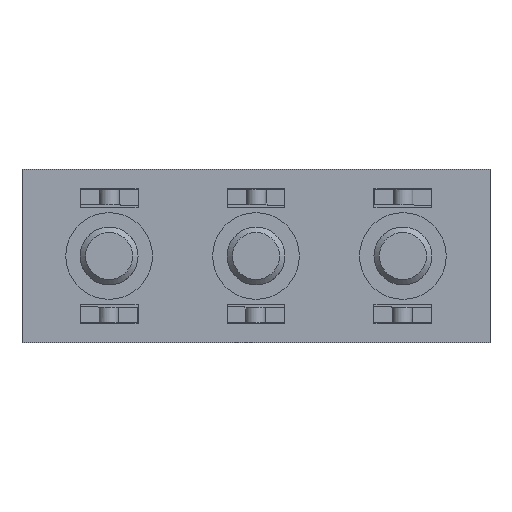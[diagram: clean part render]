
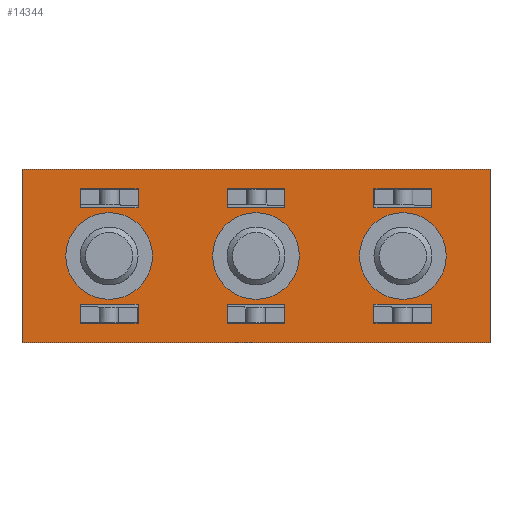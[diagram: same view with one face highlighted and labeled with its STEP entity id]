
A CAD part, front view. The second image highlights one B-rep face of the part: STEP entity #14344.
In plain terms, the highlighted planar face has unit normal (0, -1, 0).
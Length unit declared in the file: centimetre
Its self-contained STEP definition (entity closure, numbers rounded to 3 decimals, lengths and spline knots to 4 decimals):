
#761=PLANE('',#23874);
#1235=VECTOR('',#15170,1.);
#1334=VECTOR('',#15414,1.);
#1337=VECTOR('',#15418,1.);
#1365=VECTOR('',#15515,1.);
#1369=VECTOR('',#15520,1.);
#1372=VECTOR('',#15524,1.);
#1375=VECTOR('',#15534,1.);
#1379=VECTOR('',#15539,1.);
#1382=VECTOR('',#15543,1.);
#1480=VECTOR('',#15786,1.);
#1483=VECTOR('',#15790,1.);
#1503=VECTOR('',#15856,1.);
#1511=VECTOR('',#15875,1.);
#1517=VECTOR('',#15882,1.);
#1519=VECTOR('',#15885,1.);
#1521=VECTOR('',#15888,1.);
#1523=VECTOR('',#15895,1.);
#1525=VECTOR('',#15898,1.);
#1527=VECTOR('',#15901,1.);
#1528=VECTOR('',#15903,1.);
#1529=VECTOR('',#15904,1.);
#1530=VECTOR('',#15905,1.);
#1531=VECTOR('',#15908,1.);
#1532=VECTOR('',#15909,1.);
#1533=VECTOR('',#15910,1.);
#1534=VECTOR('',#15911,1.);
#1535=VECTOR('',#15912,1.);
#1536=VECTOR('',#15913,1.);
#2820=LINE('',#17845,#1235);
#2919=LINE('',#18179,#1334);
#2922=LINE('',#18186,#1337);
#2950=LINE('',#18286,#1365);
#2954=LINE('',#18295,#1369);
#2957=LINE('',#18301,#1372);
#2960=LINE('',#18313,#1375);
#2964=LINE('',#18322,#1379);
#2967=LINE('',#18328,#1382);
#3065=LINE('',#18660,#1480);
#3068=LINE('',#18667,#1483);
#3088=LINE('',#18732,#1503);
#3096=LINE('',#18749,#1511);
#3102=LINE('',#18762,#1517);
#3104=LINE('',#18767,#1519);
#3106=LINE('',#18770,#1521);
#3108=LINE('',#18777,#1523);
#3110=LINE('',#18782,#1525);
#3112=LINE('',#18785,#1527);
#3113=LINE('',#18787,#1528);
#3114=LINE('',#18789,#1529);
#3115=LINE('',#18791,#1530);
#3116=LINE('',#18794,#1531);
#3117=LINE('',#18796,#1532);
#3118=LINE('',#18798,#1533);
#3119=LINE('',#18799,#1534);
#3120=LINE('',#18800,#1535);
#3121=LINE('',#18801,#1536);
#4406=VERTEX_POINT('',#17844);
#4407=VERTEX_POINT('',#17846);
#4509=VERTEX_POINT('',#18178);
#4510=VERTEX_POINT('',#18180);
#4512=VERTEX_POINT('',#18185);
#4513=VERTEX_POINT('',#18187);
#4547=VERTEX_POINT('',#18285);
#4548=VERTEX_POINT('',#18287);
#4551=VERTEX_POINT('',#18294);
#4553=VERTEX_POINT('',#18300);
#4555=VERTEX_POINT('',#18306);
#4558=VERTEX_POINT('',#18312);
#4559=VERTEX_POINT('',#18314);
#4562=VERTEX_POINT('',#18321);
#4564=VERTEX_POINT('',#18327);
#4666=VERTEX_POINT('',#18659);
#4667=VERTEX_POINT('',#18661);
#4669=VERTEX_POINT('',#18666);
#4670=VERTEX_POINT('',#18668);
#4690=VERTEX_POINT('',#18731);
#4693=VERTEX_POINT('',#18750);
#4698=VERTEX_POINT('',#18761);
#4700=VERTEX_POINT('',#18766);
#4701=VERTEX_POINT('',#18773);
#4702=VERTEX_POINT('',#18776);
#4704=VERTEX_POINT('',#18781);
#4705=VERTEX_POINT('',#18788);
#4706=VERTEX_POINT('',#18790);
#4707=VERTEX_POINT('',#18793);
#4708=VERTEX_POINT('',#18795);
#4709=VERTEX_POINT('',#18797);
#5862=CIRCLE('',#23738,0.225);
#5910=CIRCLE('',#23870,0.225);
#5911=CIRCLE('',#23875,0.225);
#5996=EDGE_CURVE('',#4406,#4407,#2820,.T.);
#6144=EDGE_CURVE('',#4509,#4510,#2919,.T.);
#6148=EDGE_CURVE('',#4513,#4512,#2922,.T.);
#6199=EDGE_CURVE('',#4548,#4547,#2950,.T.);
#6204=EDGE_CURVE('',#4547,#4551,#2954,.T.);
#6207=EDGE_CURVE('',#4551,#4553,#2957,.T.);
#6209=EDGE_CURVE('',#4555,#4555,#5862,.T.);
#6212=EDGE_CURVE('',#4558,#4559,#2960,.T.);
#6217=EDGE_CURVE('',#4562,#4558,#2964,.T.);
#6220=EDGE_CURVE('',#4564,#4562,#2967,.T.);
#6367=EDGE_CURVE('',#4667,#4666,#3065,.T.);
#6371=EDGE_CURVE('',#4669,#4670,#3068,.T.);
#6405=EDGE_CURVE('',#4690,#4406,#3088,.T.);
#6415=EDGE_CURVE('',#4407,#4693,#3096,.T.);
#6422=EDGE_CURVE('',#4666,#4698,#3102,.T.);
#6425=EDGE_CURVE('',#4698,#4700,#3104,.T.);
#6427=EDGE_CURVE('',#4700,#4667,#3106,.T.);
#6428=EDGE_CURVE('',#4701,#4701,#5910,.T.);
#6430=EDGE_CURVE('',#4702,#4669,#3108,.T.);
#6433=EDGE_CURVE('',#4704,#4702,#3110,.T.);
#6435=EDGE_CURVE('',#4670,#4704,#3112,.T.);
#6436=EDGE_CURVE('',#4510,#4705,#3113,.T.);
#6437=EDGE_CURVE('',#4706,#4509,#3114,.T.);
#6438=EDGE_CURVE('',#4705,#4706,#3115,.T.);
#6439=EDGE_CURVE('',#4707,#4707,#5911,.T.);
#6440=EDGE_CURVE('',#4512,#4708,#3116,.T.);
#6441=EDGE_CURVE('',#4708,#4709,#3117,.T.);
#6442=EDGE_CURVE('',#4709,#4513,#3118,.T.);
#6443=EDGE_CURVE('',#4559,#4564,#3119,.T.);
#6444=EDGE_CURVE('',#4553,#4548,#3120,.T.);
#6445=EDGE_CURVE('',#4693,#4690,#3121,.T.);
#8973=ORIENTED_EDGE('',*,*,#6436,.F.);
#8974=ORIENTED_EDGE('',*,*,#6144,.F.);
#8975=ORIENTED_EDGE('',*,*,#6437,.F.);
#8976=ORIENTED_EDGE('',*,*,#6438,.F.);
#8977=ORIENTED_EDGE('',*,*,#6439,.T.);
#8978=ORIENTED_EDGE('',*,*,#6148,.T.);
#8979=ORIENTED_EDGE('',*,*,#6440,.T.);
#8980=ORIENTED_EDGE('',*,*,#6441,.T.);
#8981=ORIENTED_EDGE('',*,*,#6442,.T.);
#8982=ORIENTED_EDGE('',*,*,#6220,.F.);
#8983=ORIENTED_EDGE('',*,*,#6443,.F.);
#8984=ORIENTED_EDGE('',*,*,#6212,.F.);
#8985=ORIENTED_EDGE('',*,*,#6217,.F.);
#8986=ORIENTED_EDGE('',*,*,#6209,.T.);
#8987=ORIENTED_EDGE('',*,*,#6444,.T.);
#8988=ORIENTED_EDGE('',*,*,#6199,.T.);
#8989=ORIENTED_EDGE('',*,*,#6204,.T.);
#8990=ORIENTED_EDGE('',*,*,#6207,.T.);
#8991=ORIENTED_EDGE('',*,*,#6435,.F.);
#8992=ORIENTED_EDGE('',*,*,#6371,.F.);
#8993=ORIENTED_EDGE('',*,*,#6430,.F.);
#8994=ORIENTED_EDGE('',*,*,#6433,.F.);
#8995=ORIENTED_EDGE('',*,*,#6428,.T.);
#8996=ORIENTED_EDGE('',*,*,#6367,.T.);
#8997=ORIENTED_EDGE('',*,*,#6422,.T.);
#8998=ORIENTED_EDGE('',*,*,#6425,.T.);
#8999=ORIENTED_EDGE('',*,*,#6427,.T.);
#9000=ORIENTED_EDGE('',*,*,#6405,.F.);
#9001=ORIENTED_EDGE('',*,*,#6445,.F.);
#9002=ORIENTED_EDGE('',*,*,#6415,.F.);
#9003=ORIENTED_EDGE('',*,*,#5996,.F.);
#12540=EDGE_LOOP('',(#8973,#8974,#8975,#8976));
#12541=EDGE_LOOP('',(#8977));
#12542=EDGE_LOOP('',(#8978,#8979,#8980,#8981));
#12543=EDGE_LOOP('',(#8982,#8983,#8984,#8985));
#12544=EDGE_LOOP('',(#8986));
#12545=EDGE_LOOP('',(#8987,#8988,#8989,#8990));
#12546=EDGE_LOOP('',(#8991,#8992,#8993,#8994));
#12547=EDGE_LOOP('',(#8995));
#12548=EDGE_LOOP('',(#8996,#8997,#8998,#8999));
#12549=EDGE_LOOP('',(#9000,#9001,#9002,#9003));
#13453=FACE_BOUND('',#12540,.T.);
#13454=FACE_BOUND('',#12541,.T.);
#13455=FACE_BOUND('',#12542,.T.);
#13456=FACE_BOUND('',#12543,.T.);
#13457=FACE_BOUND('',#12544,.T.);
#13458=FACE_BOUND('',#12545,.T.);
#13459=FACE_BOUND('',#12546,.T.);
#13460=FACE_BOUND('',#12547,.T.);
#13461=FACE_BOUND('',#12548,.T.);
#13462=FACE_BOUND('',#12549,.T.);
#14344=ADVANCED_FACE('',(#13453,#13454,#13455,#13456,#13457,#13458,#13459,
#13460,#13461,#13462),#761,.F.);
#15170=DIRECTION('',(0.,0.,-1.));
#15414=DIRECTION('',(0.,0.,1.));
#15418=DIRECTION('',(0.,0.,1.));
#15515=DIRECTION('',(1.,0.,0.));
#15520=DIRECTION('',(0.,0.,-1.));
#15524=DIRECTION('',(-1.,0.,0.));
#15529=DIRECTION('',(0.,1.,0.));
#15530=DIRECTION('',(0.225,0.,0.));
#15534=DIRECTION('',(1.,0.,0.));
#15539=DIRECTION('',(0.,0.,-1.));
#15543=DIRECTION('',(-1.,0.,0.));
#15786=DIRECTION('',(0.,0.,1.));
#15790=DIRECTION('',(0.,0.,1.));
#15856=DIRECTION('',(1.,0.,0.));
#15875=DIRECTION('',(-1.,0.,0.));
#15882=DIRECTION('',(1.,0.,0.));
#15885=DIRECTION('',(0.,0.,-1.));
#15888=DIRECTION('',(-1.,0.,0.));
#15891=DIRECTION('',(0.,1.,0.));
#15892=DIRECTION('',(0.225,0.,0.));
#15895=DIRECTION('',(1.,0.,0.));
#15898=DIRECTION('',(0.,0.,-1.));
#15901=DIRECTION('',(-1.,0.,0.));
#15902=DIRECTION('',(0.,1.,0.));
#15903=DIRECTION('',(-1.,0.,0.));
#15904=DIRECTION('',(1.,0.,0.));
#15905=DIRECTION('',(0.,0.,-1.));
#15906=DIRECTION('',(0.,1.,0.));
#15907=DIRECTION('',(0.225,0.,0.));
#15908=DIRECTION('',(1.,0.,0.));
#15909=DIRECTION('',(0.,0.,-1.));
#15910=DIRECTION('',(-1.,0.,0.));
#15911=DIRECTION('',(0.,0.,1.));
#15912=DIRECTION('',(0.,0.,1.));
#15913=DIRECTION('',(0.,0.,1.));
#17844=CARTESIAN_POINT('',(1.666,0.,0.45));
#17845=CARTESIAN_POINT('',(1.666,0.,0.45));
#17846=CARTESIAN_POINT('',(1.666,0.,-0.45));
#18178=CARTESIAN_POINT('',(-0.16,0.,0.25));
#18179=CARTESIAN_POINT('',(-0.16,0.,0.25));
#18180=CARTESIAN_POINT('',(-0.16,0.,0.35));
#18185=CARTESIAN_POINT('',(-0.46,0.,-0.25));
#18186=CARTESIAN_POINT('',(-0.46,0.,-0.35));
#18187=CARTESIAN_POINT('',(-0.46,0.,-0.35));
#18285=CARTESIAN_POINT('',(1.364,0.,-0.25));
#18286=CARTESIAN_POINT('',(1.064,0.,-0.25));
#18287=CARTESIAN_POINT('',(1.064,0.,-0.25));
#18294=CARTESIAN_POINT('',(1.364,0.,-0.35));
#18295=CARTESIAN_POINT('',(1.364,0.,-0.25));
#18300=CARTESIAN_POINT('',(1.064,0.,-0.35));
#18301=CARTESIAN_POINT('',(1.364,0.,-0.35));
#18305=CARTESIAN_POINT('',(1.214,0.,0.));
#18306=CARTESIAN_POINT('',(1.439,0.,0.));
#18312=CARTESIAN_POINT('',(1.064,0.,0.25));
#18313=CARTESIAN_POINT('',(1.064,0.,0.25));
#18314=CARTESIAN_POINT('',(1.364,0.,0.25));
#18321=CARTESIAN_POINT('',(1.064,0.,0.35));
#18322=CARTESIAN_POINT('',(1.064,0.,0.35));
#18327=CARTESIAN_POINT('',(1.364,0.,0.35));
#18328=CARTESIAN_POINT('',(1.364,0.,0.35));
#18659=CARTESIAN_POINT('',(0.302,0.,-0.25));
#18660=CARTESIAN_POINT('',(0.302,0.,-0.35));
#18661=CARTESIAN_POINT('',(0.302,0.,-0.35));
#18666=CARTESIAN_POINT('',(0.602,0.,0.25));
#18667=CARTESIAN_POINT('',(0.602,0.,0.25));
#18668=CARTESIAN_POINT('',(0.602,0.,0.35));
#18731=CARTESIAN_POINT('',(-0.762,0.,0.45));
#18732=CARTESIAN_POINT('',(0.,0.,0.45));
#18749=CARTESIAN_POINT('',(0.,0.,-0.45));
#18750=CARTESIAN_POINT('',(-0.762,0.,-0.45));
#18761=CARTESIAN_POINT('',(0.602,0.,-0.25));
#18762=CARTESIAN_POINT('',(0.302,0.,-0.25));
#18766=CARTESIAN_POINT('',(0.602,0.,-0.35));
#18767=CARTESIAN_POINT('',(0.602,0.,-0.25));
#18770=CARTESIAN_POINT('',(0.602,0.,-0.35));
#18772=CARTESIAN_POINT('',(0.452,0.,0.));
#18773=CARTESIAN_POINT('',(0.677,0.,0.));
#18776=CARTESIAN_POINT('',(0.302,0.,0.25));
#18777=CARTESIAN_POINT('',(0.302,0.,0.25));
#18781=CARTESIAN_POINT('',(0.302,0.,0.35));
#18782=CARTESIAN_POINT('',(0.302,0.,0.35));
#18785=CARTESIAN_POINT('',(0.602,0.,0.35));
#18786=CARTESIAN_POINT('',(0.381,0.,0.));
#18787=CARTESIAN_POINT('',(-0.16,0.,0.35));
#18788=CARTESIAN_POINT('',(-0.46,0.,0.35));
#18789=CARTESIAN_POINT('',(-0.46,0.,0.25));
#18790=CARTESIAN_POINT('',(-0.46,0.,0.25));
#18791=CARTESIAN_POINT('',(-0.46,0.,0.35));
#18792=CARTESIAN_POINT('',(-0.31,0.,0.));
#18793=CARTESIAN_POINT('',(-0.085,0.,0.));
#18794=CARTESIAN_POINT('',(-0.46,0.,-0.25));
#18795=CARTESIAN_POINT('',(-0.16,0.,-0.25));
#18796=CARTESIAN_POINT('',(-0.16,0.,-0.25));
#18797=CARTESIAN_POINT('',(-0.16,0.,-0.35));
#18798=CARTESIAN_POINT('',(-0.16,0.,-0.35));
#18799=CARTESIAN_POINT('',(1.364,0.,0.25));
#18800=CARTESIAN_POINT('',(1.064,0.,-0.35));
#18801=CARTESIAN_POINT('',(-0.762,0.,-0.45));
#23738=AXIS2_PLACEMENT_3D('',#18305,#15529,#15530);
#23870=AXIS2_PLACEMENT_3D('',#18772,#15891,#15892);
#23874=AXIS2_PLACEMENT_3D('',#18786,#15902,$);
#23875=AXIS2_PLACEMENT_3D('',#18792,#15906,#15907);
